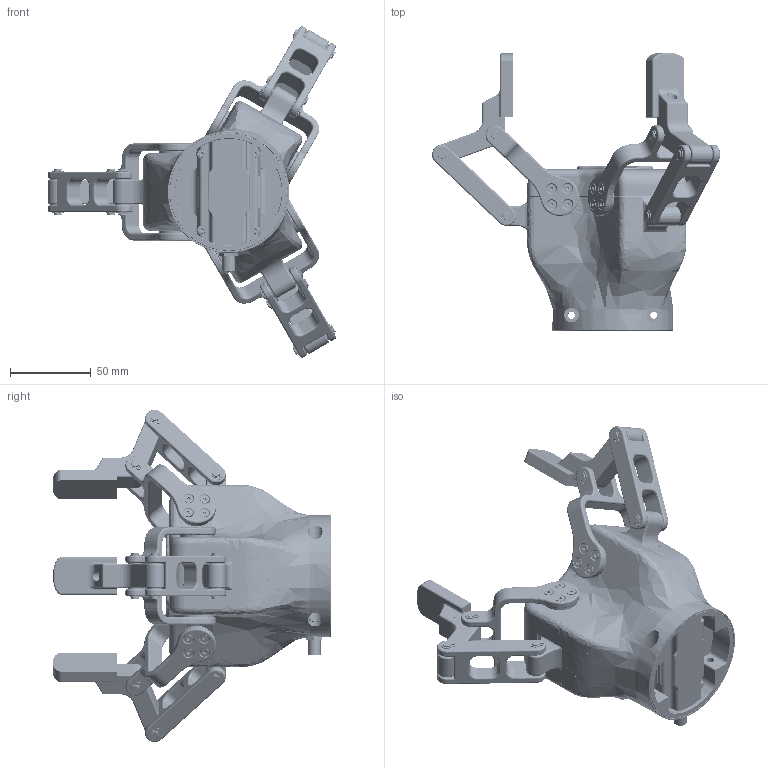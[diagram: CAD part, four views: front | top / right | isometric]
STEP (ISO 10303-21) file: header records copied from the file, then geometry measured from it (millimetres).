
FILE_DESCRIPTION (( 'STEP AP214' ), '1' );
FILE_NAME ('CTM3F123.00_三指模块化手(外置控制器版)-20240517外发.STEP', '2024-05-17T07:03:07', ( '' ), ( '' ), 'SwSTEP 2.0', 'SolidWorks 2016', '' );
FILE_SCHEMA (( 'AUTOMOTIVE_DESIGN' ));
Length unit declared in the file: millimetre
Products named in the file (1): CTM3F123.00_三指模块化手(外置控制器版)-20240517外发
Bounding box: 177.79 x 171.17 x 204.98 mm (x, y, z)
Surface area: 227716.4 mm2 (no closed solid volume)
Topology: 0 solids, 469 shells, 6454 faces, 15974 edges, 9251 vertices
Faces by surface type: cylinder 2266, plane 1882, bspline 1728, cone 488, torus 90
Entity records: 453279 total; most frequent: CARTESIAN_POINT 307441, ORIENTED_EDGE 29108, DIRECTION 28367, EDGE_CURVE 14560, AXIS2_PLACEMENT_3D 11220, VERTEX_POINT 9251, EDGE_LOOP 7063, CIRCLE 6493
